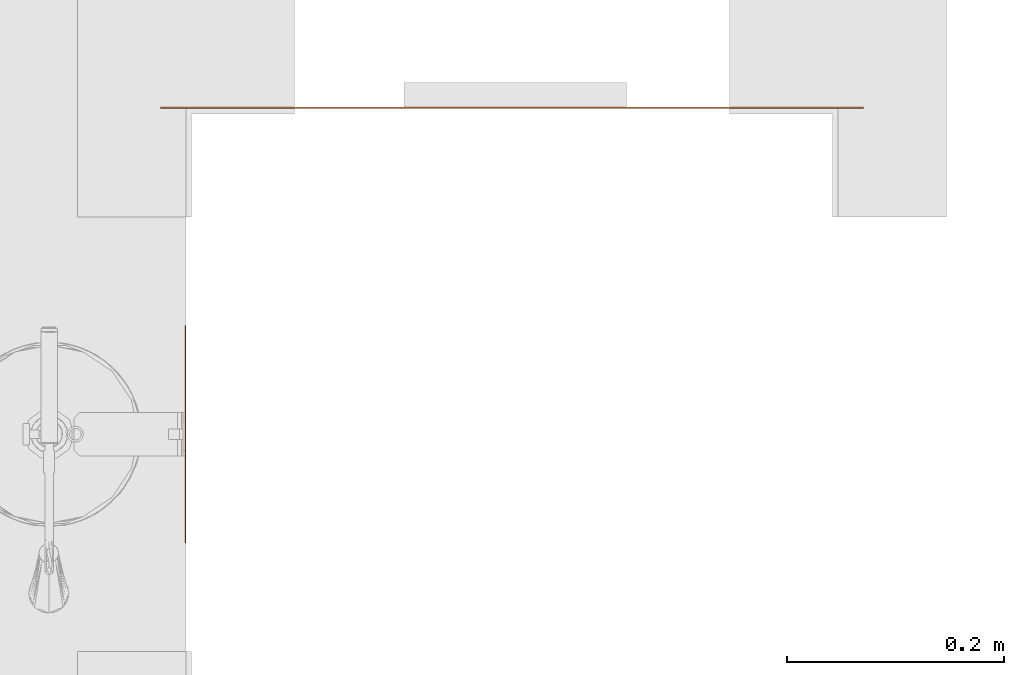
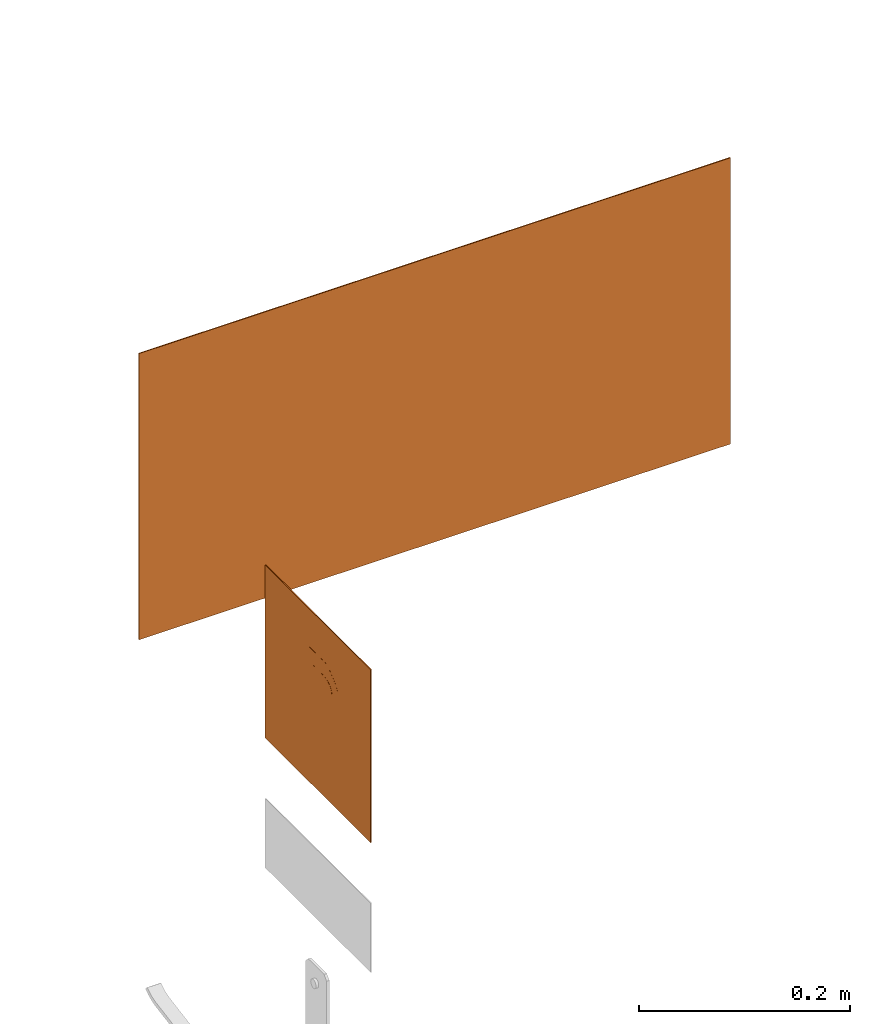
# One storey, part 106 of 119: 2 proxies.
"""IFC2X3 building model written with IfcOpenShell, lengths in metres."""

from ifc_helpers import new_model, entity, si_unit, converted_unit, derived_unit, direction, frame, frame_2d, origin, origin_2d_with_axis, place, context, subcontext, project, spatial, polyline, circle_curve, parameter, trimmed, segment, composite_curve, rectangle, outline, extrude, source, transform, mapped, material, material_list, type_object, type_shapes, element, save


model = new_model("IFC2X3")

# Units and contexts
model_context = context("Model", 3, precision=1e-05, world=origin(), true_north=direction((6.12303176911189e-17, 1.0)))
body_context = subcontext(model_context, "Body", "Model", "MODEL_VIEW")
ifc_project = project(units=[si_unit("LENGTHUNIT", "METRE"), si_unit("AREAUNIT", "SQUARE_METRE"), si_unit("VOLUMEUNIT", "CUBIC_METRE"), converted_unit("PLANEANGLEUNIT", "DEGREE", entity("IfcRatioMeasure", 0.0174532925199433), si_unit("PLANEANGLEUNIT", "RADIAN"), dimensions=[0, 0, 0, 0, 0, 0, 0]), si_unit("MASSUNIT", "GRAM", prefix="KILO"), derived_unit("MASSDENSITYUNIT", [(si_unit("MASSUNIT", "GRAM", prefix="KILO"), 1), (si_unit("LENGTHUNIT", "METRE"), -3)]), derived_unit("MOMENTOFINERTIAUNIT", [(si_unit("LENGTHUNIT", "METRE"), 4)]), si_unit("TIMEUNIT", "SECOND"), si_unit("FREQUENCYUNIT", "HERTZ"), si_unit("THERMODYNAMICTEMPERATUREUNIT", "DEGREE_CELSIUS"), derived_unit("THERMALTRANSMITTANCEUNIT", [(si_unit("MASSUNIT", "GRAM", prefix="KILO"), 1), (si_unit("THERMODYNAMICTEMPERATUREUNIT", "KELVIN"), -1), (si_unit("TIMEUNIT", "SECOND"), -3)]), derived_unit("VOLUMETRICFLOWRATEUNIT", [(si_unit("LENGTHUNIT", "METRE"), 3), (si_unit("TIMEUNIT", "SECOND"), -1)]), si_unit("ELECTRICCURRENTUNIT", "AMPERE"), si_unit("ELECTRICVOLTAGEUNIT", "VOLT"), si_unit("POWERUNIT", "WATT"), si_unit("FORCEUNIT", "NEWTON", prefix="KILO"), si_unit("ILLUMINANCEUNIT", "LUX"), si_unit("LUMINOUSFLUXUNIT", "LUMEN"), si_unit("LUMINOUSINTENSITYUNIT", "CANDELA"), derived_unit("USERDEFINED", [(si_unit("MASSUNIT", "GRAM", prefix="KILO"), -1), (si_unit("LENGTHUNIT", "METRE"), -2), (si_unit("TIMEUNIT", "SECOND"), 3), (si_unit("LUMINOUSFLUXUNIT", "LUMEN"), 1)]), derived_unit("LINEARVELOCITYUNIT", [(si_unit("LENGTHUNIT", "METRE"), 1), (si_unit("TIMEUNIT", "SECOND"), -1)]), si_unit("PRESSUREUNIT", "PASCAL"), derived_unit("USERDEFINED", [(si_unit("LENGTHUNIT", "METRE"), -2), (si_unit("MASSUNIT", "GRAM", prefix="KILO"), 1), (si_unit("TIMEUNIT", "SECOND"), -2)]), derived_unit("LINEARFORCEUNIT", [(si_unit("MASSUNIT", "GRAM", prefix="KILO"), 1), (si_unit("LENGTHUNIT", "METRE"), 1), (si_unit("TIMEUNIT", "SECOND"), -2), (si_unit("LENGTHUNIT", "METRE"), -1)]), derived_unit("PLANARFORCEUNIT", [(si_unit("MASSUNIT", "GRAM", prefix="KILO"), 1), (si_unit("LENGTHUNIT", "METRE"), 1), (si_unit("TIMEUNIT", "SECOND"), -2), (si_unit("LENGTHUNIT", "METRE"), -2)])], contexts=[model_context])

# Site, building, storey
site_placement = place(None, origin())
site = spatial("IfcSite", under=ifc_project, at=site_placement, Name="Default", CompositionType="ELEMENT")
building_placement = place(site_placement, origin())
building = spatial("IfcBuilding", under=site, at=building_placement, CompositionType="ELEMENT")
storey_placement = place(building_placement, origin())
storey = spatial("IfcBuildingStorey", under=building, at=storey_placement, Name="PAV. 01 - TÉRREO", CompositionType="ELEMENT", Elevation=0.0)

# Proxies
ifc_material_1 = material(Name="Plastico branco")
ifc_material_2 = material(Name="Plastico Verde")
ifc_material_list_1 = material_list([ifc_material_1, ifc_material_2])
building_element_proxy_type_1 = type_object("IfcBuildingElementProxyType", Name="Sinalização de orientação - S02 - Indicação do sentido da saída de emergência esquerda:Distância 20m", PredefinedType="NOTDEFINED", material=ifc_material_1)
shared_shape_1 = source(origin(), body_context, "Body", "SweptSolid", [
    extrude(outline(polyline([(-0.0447808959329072, -0.0403053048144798), (-0.043171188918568, -0.0403053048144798), (-0.0413200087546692, -0.0389366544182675), (-0.0392890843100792, -0.0364788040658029), (-0.0371401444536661, -0.033211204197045), (-0.0349349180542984, -0.0294133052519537), (-0.0265856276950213, -0.0138527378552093), (-0.0227430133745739, -0.00709511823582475), (-0.0208230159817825, -0.00397540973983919), (-0.0188699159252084, -0.00102040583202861), (-0.0168582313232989, 0.00177591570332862), (-0.0147624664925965, 0.00441959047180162), (-0.0125318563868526, 0.00694116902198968), (-0.0100380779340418, 0.00944644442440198), (-0.00713797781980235, 0.0120555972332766), (-0.00368840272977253, 0.0148888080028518), (0.000453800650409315, 0.018066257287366), (0.0268119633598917, 0.0366220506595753), (0.00900823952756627, 0.0460096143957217), (0.00759831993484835, 0.0467239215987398), (0.00663979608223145, 0.0471861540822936), (0.00601886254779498, 0.047454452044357), (0.00562171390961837, 0.0475869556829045), (0.005334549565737, 0.047641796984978), (0.00505495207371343, 0.0476577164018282), (0.00471625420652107, 0.047612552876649), (0.00425878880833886, 0.0474722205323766), (0.00362288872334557, 0.0472026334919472), (0.00274888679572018, 0.046769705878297), (0.00157711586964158, 0.0461393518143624), (-0.0256767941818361, 0.0298988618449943), (-0.0282489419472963, 0.0288779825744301), (-0.0306367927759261, 0.0282861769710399), (-0.0328328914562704, 0.028086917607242), (-0.0348297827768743, 0.0282436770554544), (-0.0366200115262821, 0.0287199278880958), (-0.0381961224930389, 0.0294791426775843), (-0.0395506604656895, 0.0304847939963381), (-0.0406761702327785, 0.0317003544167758), (-0.041565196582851, 0.0330892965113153), (-0.0422102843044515, 0.0346150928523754), (-0.0426039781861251, 0.036241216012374), (-0.0427388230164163, 0.0379311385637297), (-0.0426073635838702, 0.0396483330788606), (-0.0422021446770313, 0.0413562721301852), (-0.0415157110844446, 0.0430184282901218), (-0.040540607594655, 0.0445982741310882), (-0.0392693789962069, 0.0460592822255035), (-0.0376945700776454, 0.0473649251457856), (-0.020544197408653, 0.0580635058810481), (-0.00936529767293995, 0.0647230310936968), (-0.00237080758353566, 0.0682051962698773), (0.00222633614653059, 0.0693716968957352), (0.00619530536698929, 0.069077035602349), (0.0105721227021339, 0.0678809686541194), (0.0154180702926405, 0.0659513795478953), (0.0207269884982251, 0.0634290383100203), (0.0636286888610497, 0.0407952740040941), (0.0681400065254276, 0.0382962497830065), (0.0719015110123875, 0.0357625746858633), (0.0750089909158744, 0.032796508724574), (0.0775582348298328, 0.0290003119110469), (0.0796450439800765, 0.0239762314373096), (0.0814169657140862, 0.0172739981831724), (0.0831911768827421, 0.00827118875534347), (0.0881539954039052, -0.0192667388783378), (0.114405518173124, -0.0331658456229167), (0.169612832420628, 0.0711053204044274), (0.00387253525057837, 0.158858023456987), (-0.0853121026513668, -0.00958679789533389), (-0.0933374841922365, -0.00533768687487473), (-0.141866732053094, -0.0260508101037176), (-0.104503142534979, -0.0458333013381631), (-0.122153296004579, -0.0791695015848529), (-0.150380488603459, -0.0881243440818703), (-0.0339389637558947, -0.149775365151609), (-0.00485925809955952, -0.141271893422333), (0.0203339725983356, -0.154610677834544), (-0.0128105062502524, -0.160962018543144), (0.0158595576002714, -0.176141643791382), (0.043587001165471, -0.166922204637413), (0.104490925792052, -0.0518917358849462), (0.0750538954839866, -0.0363119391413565), (0.0725734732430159, -0.034899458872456), (0.0706715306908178, -0.0335889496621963), (0.0692214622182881, -0.0322141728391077), (0.0680966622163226, -0.0306088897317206), (0.0671705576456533, -0.0286069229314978), (0.0663377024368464, -0.0260818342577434), (0.0655501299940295, -0.0230153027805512), (0.0647695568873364, -0.0194072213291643), (0.060951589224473, 0.000442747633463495), (0.0287102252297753, -0.0230602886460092), (0.0246142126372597, -0.146526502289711), (-0.000579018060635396, -0.133187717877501), (-0.00053001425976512, -0.0237630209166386), (-0.0206753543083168, -0.0530682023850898), (-0.0230063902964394, -0.0567384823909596), (-0.0251862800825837, -0.0599201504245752), (-0.027294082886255, -0.0625984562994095), (-0.0294088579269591, -0.0647586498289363), (-0.0316096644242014, -0.0663859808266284), (-0.0339755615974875, -0.0674656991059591), (-0.0365856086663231, -0.0679830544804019), (-0.0395188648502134, -0.0679232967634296), (-0.0428543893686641, -0.0672716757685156), (-0.0466712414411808, -0.0660134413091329), (-0.051048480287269, -0.0641338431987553), (-0.0560651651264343, -0.0616181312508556), (-0.118768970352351, -0.0284190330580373), (-0.0891409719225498, -0.0168184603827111), (-0.0447808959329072, -0.0403053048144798)]), holes=[composite_curve([segment(trimmed(circle_curve(frame_2d((0.0860212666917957, 0.0597350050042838), x_axis=(0.883770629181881, -0.467920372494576)), 0.0222863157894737), [parameter(180.0)], [parameter(0.0)], True, "PARAMETER"), False, "CONTINUOUS"), segment(trimmed(circle_curve(frame_2d((0.0860212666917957, 0.0597350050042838), x_axis=(0.883770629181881, -0.467920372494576)), 0.0222863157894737), [parameter(3.56222124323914e-13)], [parameter(180.0)], True, "PARAMETER"), False, "CONTINUOUS")], self_intersect=False)]), frame((0.18787689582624, -0.00110000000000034, 1.9685208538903), z_axis=(0.0, 1.0, 0.0), x_axis=(-0.883770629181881, 0.0, 0.467920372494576)), (0.0, 0.0, 1.0), 0.0011),
    extrude(outline(polyline([(-0.323500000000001, -0.165500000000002), (0.323500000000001, -0.165500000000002), (0.323500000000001, 0.165500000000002), (-0.323500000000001, 0.165500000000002), (-0.323500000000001, -0.165500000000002)]), holes=[polyline([(-0.316000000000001, -0.158000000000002), (-0.316000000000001, 0.157999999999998), (0.315999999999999, 0.157999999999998), (0.315999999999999, -0.158000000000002), (-0.316000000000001, -0.158000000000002)])]), frame((0.0, -0.0011, 1.9655), z_axis=(0.0, 1.0, 0.0), x_axis=(1.0, 0.0, 0.0)), (0.0, 0.0, 1.0), 0.0011),
    extrude(rectangle(XDim=0.632, YDim=0.001, at=origin_2d_with_axis()), frame((0.0, -0.0005, 1.8075)), (0.0, 0.0, 1.0), 0.316000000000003),
    extrude(outline(polyline([(-0.0567986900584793, -0.0957978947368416), (0.0276564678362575, -0.0957978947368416), (-0.0363085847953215, -0.0318328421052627), (0.141749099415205, -0.0318328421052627), (0.141749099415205, 0.0318328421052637), (-0.0363085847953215, 0.0318328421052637), (0.0276564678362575, 0.0957978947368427), (-0.0567986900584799, 0.0957978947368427), (-0.152596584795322, 0.0), (-0.0567986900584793, -0.0957978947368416)])), frame((-0.141749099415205, -0.0011, 1.9655), z_axis=(0.0, 1.0, 0.0), x_axis=(1.0, 0.0, 0.0)), (0.0, 0.0, 1.0), 0.0011),
])
type_shapes(building_element_proxy_type_1, [shared_shape_1])
proxy_1_placement = place(storey_placement, frame((81.173781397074, 32.2286443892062, 0.0), z_axis=(0.0, 0.0, 1.0), x_axis=(-1.0, 0.0, 0.0)))
element("IfcBuildingElementProxy", 1, at=proxy_1_placement, inside=storey, type_object=building_element_proxy_type_1, material=ifc_material_list_1, Name="Sinalização de orientação - S02 - Indicação do sentido da saída de emergência esquerda:Distância 20m", ObjectType="Sinalização de orientação - S02 - Indicação do sentido da saída de emergência esquerda:Distância 20m", context=body_context, shape_type="MappedRepresentation", body=[
    mapped(shared_shape_1, transform((0.0, 0.0, 0.0), scale=1.0)),
])
ifc_material_3 = material(Name="Plastico vermelho")
ifc_material_list_2 = material_list([ifc_material_1, ifc_material_3])
building_element_proxy_type_2 = type_object("IfcBuildingElementProxyType", Name="Sinalização de equipamentos - E05 - Extintor de incêndio:Distância 08m", PredefinedType="NOTDEFINED", material=ifc_material_1)
shared_shape_2 = source(origin(), body_context, "Body", "SweptSolid", [
    extrude(outline(composite_curve([segment(polyline([(-0.039533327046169, -0.0988107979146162), (0.0136590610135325, -0.0988107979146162)]), True, "CONTINUOUS"), segment(polyline([(0.0136590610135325, -0.0988107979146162), (0.0136590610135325, -0.0150548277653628)]), True, "CONTINUOUS"), segment(polyline([(0.0136590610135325, -0.0150548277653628), (0.0132403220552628, -0.0112272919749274)]), True, "CONTINUOUS"), segment(polyline([(0.0132403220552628, -0.0112272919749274), (0.0119841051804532, -0.00798860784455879)]), True, "CONTINUOUS"), segment(polyline([(0.0119841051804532, -0.00798860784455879), (0.00989041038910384, -0.00533877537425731)]), True, "CONTINUOUS"), segment(polyline([(0.00989041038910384, -0.00533877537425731), (0.00695923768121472, -0.00327779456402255)]), True, "CONTINUOUS"), segment(polyline([(0.00695923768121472, -0.00327779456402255), (0.00319058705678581, -0.00180566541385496)]), True, "CONTINUOUS"), segment(polyline([(0.00319058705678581, -0.00180566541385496), (-0.00141554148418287, -0.000922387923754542)]), True, "CONTINUOUS"), segment(polyline([(-0.00141554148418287, -0.000922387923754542), (-0.00685914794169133, -0.000627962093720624)]), True, "CONTINUOUS"), segment(polyline([(-0.00685914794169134, -0.000627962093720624), (-0.00685914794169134, 0.00837547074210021)]), True, "CONTINUOUS"), segment(polyline([(-0.00685914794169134, 0.00837547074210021), (0.000568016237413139, 0.00837547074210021)]), True, "CONTINUOUS"), segment(polyline([(0.000568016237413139, 0.00837547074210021), (0.021500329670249, -0.0075875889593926)]), True, "CONTINUOUS"), segment(polyline([(0.021500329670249, -0.0075875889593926), (0.021500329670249, -0.0104328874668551)]), True, "CONTINUOUS"), segment(polyline([(0.021500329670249, -0.0104328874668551), (0.0245059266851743, -0.0104328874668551)]), True, "CONTINUOUS"), segment(polyline([(0.0245059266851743, -0.0104328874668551), (0.0245059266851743, -0.00811335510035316)]), True, "CONTINUOUS"), segment(polyline([(0.0245059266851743, -0.00811335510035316), (0.0243642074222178, -0.00545038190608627)]), True, "CONTINUOUS"), segment(polyline([(0.0243642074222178, -0.00545038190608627), (0.0239570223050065, -0.0032112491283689)]), True, "CONTINUOUS"), segment(polyline([(0.0239570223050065, -0.0032112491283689), (0.0233113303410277, -0.00132119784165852)]), True, "CONTINUOUS"), segment(polyline([(0.0233113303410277, -0.00132119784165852), (0.0224540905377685, 0.00029453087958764)]), True, "CONTINUOUS"), segment(polyline([(0.0224540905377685, 0.00029453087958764), (0.0214122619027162, 0.00171069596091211)]), True, "CONTINUOUS"), segment(polyline([(0.0214122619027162, 0.00171069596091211), (0.0202128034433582, 0.00300205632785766)]), True, "CONTINUOUS"), segment(polyline([(0.0202128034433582, 0.00300205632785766), (0.0188826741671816, 0.00424337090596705)]), True, "CONTINUOUS"), segment(polyline([(0.0188826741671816, 0.00424337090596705), (0.0144021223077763, 0.00811180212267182)]), True, "CONTINUOUS"), segment(polyline([(0.0144021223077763, 0.00811180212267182), (0.0113518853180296, 0.0106145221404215)]), True, "CONTINUOUS"), segment(polyline([(0.0113518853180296, 0.0106145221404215), (0.0085825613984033, 0.0127576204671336)]), True, "CONTINUOUS"), segment(polyline([(0.0085825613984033, 0.0127576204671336), (0.00738733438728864, 0.0136170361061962)]), True, "CONTINUOUS"), segment(polyline([(0.00738733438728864, 0.0136170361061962), (0.00631521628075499, 0.0143235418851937)]), True, "CONTINUOUS"), segment(polyline([(0.00631521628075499, 0.0143235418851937), (0.00532850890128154, 0.0148903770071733)]), True, "CONTINUOUS"), segment(polyline([(0.00532850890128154, 0.0148903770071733), (0.00438926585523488, 0.0153309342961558)]), True, "CONTINUOUS"), segment(polyline([(0.00438926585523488, 0.0153309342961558), (0.00345954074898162, 0.0156586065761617)]), True, "CONTINUOUS"), segment(polyline([(0.00345954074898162, 0.0156586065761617), (0.00250138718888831, 0.0158867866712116)]), True, "CONTINUOUS"), segment(polyline([(0.00250138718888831, 0.0158867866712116), (0.00144087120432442, 0.0160289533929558)]), True, "CONTINUOUS"), segment(polyline([(0.00144087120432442, 0.0160289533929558), (-0.000108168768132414, 0.0160993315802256)]), True, "CONTINUOUS"), segment(polyline([(-0.000108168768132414, 0.0160993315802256), (-0.00685914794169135, 0.0160831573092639)]), True, "CONTINUOUS"), segment(polyline([(-0.00685914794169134, 0.0160831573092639), (-0.00685914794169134, 0.0213863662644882)]), True, "CONTINUOUS"), segment(polyline([(-0.00685914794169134, 0.0213863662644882), (-0.0177728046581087, 0.0213863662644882)]), True, "CONTINUOUS"), segment(polyline([(-0.0177728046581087, 0.0213863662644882), (-0.0177728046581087, 0.0160831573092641)]), True, "CONTINUOUS"), segment(polyline([(-0.0177728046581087, 0.0160831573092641), (-0.0288467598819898, 0.0160831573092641)]), True, "CONTINUOUS"), segment(trimmed(circle_curve(frame_2d((-0.0288467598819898, 0.0122293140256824), x_axis=(-1.0, 0.0)), 0.00385384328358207), [parameter(270.0)], [parameter(90.0000000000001)], True, "PARAMETER"), True, "CONTINUOUS"), segment(polyline([(-0.0288467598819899, 0.00837547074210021), (-0.0190151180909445, 0.00837547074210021)]), True, "CONTINUOUS"), segment(polyline([(-0.0190151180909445, 0.00837547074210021), (-0.0190151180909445, -0.000627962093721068)]), True, "CONTINUOUS"), segment(polyline([(-0.0190151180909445, -0.000627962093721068), (-0.024458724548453, -0.000922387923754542)]), True, "CONTINUOUS"), segment(polyline([(-0.024458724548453, -0.000922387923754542), (-0.0290648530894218, -0.00180566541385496)]), True, "CONTINUOUS"), segment(polyline([(-0.0290648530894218, -0.00180566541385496), (-0.0328335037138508, -0.00327779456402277)]), True, "CONTINUOUS"), segment(polyline([(-0.0328335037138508, -0.00327779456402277), (-0.03576467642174, -0.00533877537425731)]), True, "CONTINUOUS"), segment(polyline([(-0.03576467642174, -0.00533877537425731), (-0.0378583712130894, -0.00798860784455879)]), True, "CONTINUOUS"), segment(polyline([(-0.0378583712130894, -0.00798860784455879), (-0.0391145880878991, -0.0112272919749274)]), True, "CONTINUOUS"), segment(polyline([(-0.0391145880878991, -0.0112272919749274), (-0.039533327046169, -0.0150548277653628)]), True, "CONTINUOUS"), segment(polyline([(-0.039533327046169, -0.0150548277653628), (-0.039533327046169, -0.0988107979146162)]), True, "CONTINUOUS")], self_intersect=False)), frame((-0.0129371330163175, 0.0, 1.94006139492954), z_axis=(0.0, 1.0, 0.0), x_axis=(-1.0, 0.0, 0.0)), (0.0, 0.0, 1.0), 0.0011),
    extrude(rectangle(XDim=0.179, YDim=0.001, at=origin_2d_with_axis()), frame((0.0, 0.0005, 1.8105), z_axis=(0.0, 0.0, 1.0), x_axis=(-1.0, 0.0, 0.0)), (0.0, 0.0, 1.0), 0.179),
    extrude(outline(polyline([(-0.100000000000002, -0.1), (0.100000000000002, -0.1), (0.100000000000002, 0.1), (-0.100000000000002, 0.1), (-0.100000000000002, -0.1)]), holes=[polyline([(-0.0895000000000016, -0.0895000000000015), (-0.0895000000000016, 0.0894999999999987), (0.0894999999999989, 0.0894999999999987), (0.0894999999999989, -0.0895000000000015), (-0.0895000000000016, -0.0895000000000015)])]), frame((0.0, 0.0, 1.9), z_axis=(0.0, 1.0, 0.0), x_axis=(0.0, 0.0, -1.0)), (0.0, 0.0, 1.0), 0.001),
])
type_shapes(building_element_proxy_type_2, [shared_shape_2])
proxy_2_placement = place(storey_placement, frame((80.8737817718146, 31.9286447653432, 0.0), z_axis=(0.0, 0.0, 1.0), x_axis=(0.0, 1.0, 0.0)))
element("IfcBuildingElementProxy", 2, at=proxy_2_placement, inside=storey, type_object=building_element_proxy_type_2, material=ifc_material_list_2, Name="Sinalização de equipamentos - E05 - Extintor de incêndio:Distância 08m", ObjectType="Sinalização de equipamentos - E05 - Extintor de incêndio:Distância 08m", context=body_context, shape_type="MappedRepresentation", body=[
    mapped(shared_shape_2, transform((0.0, 0.0, 0.0), scale=1.0)),
])

save(model, "model.ifc")
